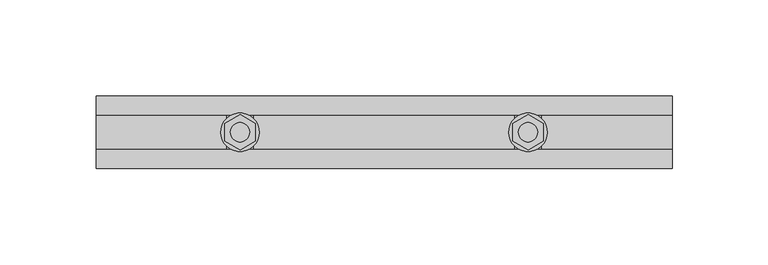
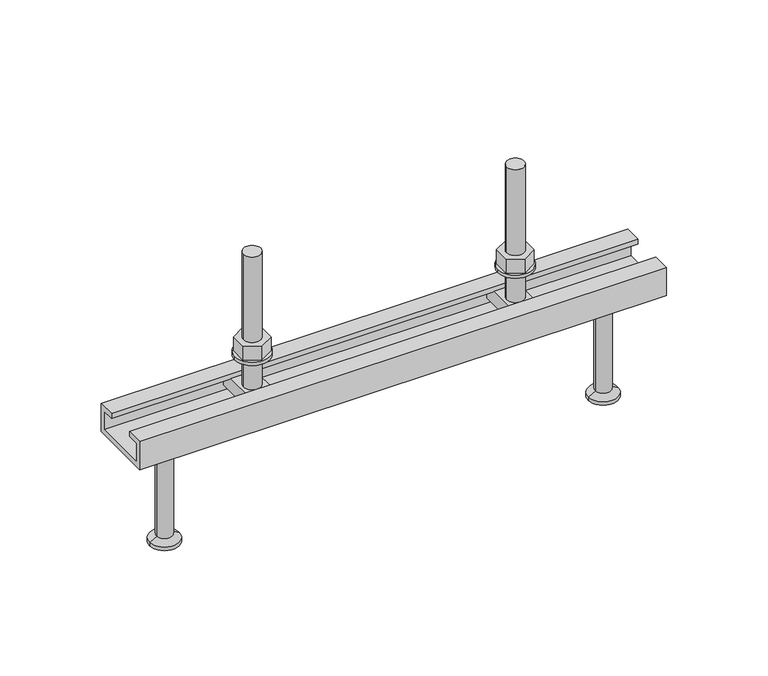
"""IFC4 building model written with IfcOpenShell, lengths in millimetres: fastener geometry, JTA-K JORDAHL® AnchorChannels : JTA-K L=300 mm."""

from ifc_helpers import new_model, si_unit, point, frame, frame_2d, origin, place, context, project, spatial, polyline, circle_curve, trimmed, segment, composite_curve, outline, extrude, source, transform, mapped, element, save
from ifc_brep_helpers import plane_surface, cylinder_surface, revolved_surface, advanced_brep


def fastener_ff0beab8(model_context):
    return source(origin(), model_context, "Body", "SolidModel", [
        extrude(outline(polyline([(225.0, 9.2376043), (233.0, 4.6188022), (233.0, -4.6188022), (225.0, -9.2376043), (217.0, -4.6188022), (217.0, 4.6188022), (225.0, 9.2376043)]), holes=[composite_curve([segment(trimmed(circle_curve(frame_2d((225.0, 0.0)), 5.0), [point((220.0, 0.0))], [point((230.0, 0.0))], True, "CARTESIAN"), True, "CONTINUOUS"), segment(trimmed(circle_curve(frame_2d((225.0, 0.0)), 5.0), [point((230.0, 0.0))], [point((220.0, 0.0))], True, "CARTESIAN"), True, "CONTINUOUS")], self_intersect=False)]), frame((0.0, 0.0, 17.0), z_axis=(0.0, 0.0, 1.0), x_axis=(1.0, 0.0, 0.0)), (0.0, 0.0, 1.0), 8.4),
        extrude(outline(composite_curve([segment(trimmed(circle_curve(frame_2d((225.0, 0.0)), 10.0), [point((215.0, 0.0))], [point((235.0, 0.0))], False, "CARTESIAN"), True, "CONTINUOUS"), segment(trimmed(circle_curve(frame_2d((225.0, 0.0)), 10.0), [point((235.0, 0.0))], [point((215.0, 0.0))], False, "CARTESIAN"), True, "CONTINUOUS")], self_intersect=False), holes=[composite_curve([segment(trimmed(circle_curve(frame_2d((225.0, 0.0)), 5.25), [point((219.75, 0.0))], [point((230.25, 0.0))], True, "CARTESIAN"), True, "CONTINUOUS"), segment(trimmed(circle_curve(frame_2d((225.0, 0.0)), 5.25), [point((230.25, 0.0))], [point((219.75, 0.0))], True, "CARTESIAN"), True, "CONTINUOUS")], self_intersect=False)]), frame((0.0, 0.0, 15.0), z_axis=(0.0, 0.0, 1.0), x_axis=(1.0, 0.0, 0.0)), (0.0, 0.0, 1.0), 2.0),
        extrude(outline(polyline([(75.0, 9.2376043), (83.0, 4.6188022), (83.0, -4.6188022), (75.0, -9.2376043), (67.0, -4.6188022), (67.0, 4.6188022), (75.0, 9.2376043)]), holes=[composite_curve([segment(trimmed(circle_curve(frame_2d((75.0, 0.0)), 5.0), [point((70.0, 0.0))], [point((80.0, 0.0))], True, "CARTESIAN"), True, "CONTINUOUS"), segment(trimmed(circle_curve(frame_2d((75.0, 0.0)), 5.0), [point((80.0, 0.0))], [point((70.0, 0.0))], True, "CARTESIAN"), True, "CONTINUOUS")], self_intersect=False)]), frame((0.0, 0.0, 17.0), z_axis=(0.0, 0.0, 1.0), x_axis=(1.0, 0.0, 0.0)), (0.0, 0.0, 1.0), 8.4),
        extrude(outline(composite_curve([segment(trimmed(circle_curve(frame_2d((75.0, 0.0)), 10.0), [point((65.0, 0.0))], [point((85.0, 0.0))], False, "CARTESIAN"), True, "CONTINUOUS"), segment(trimmed(circle_curve(frame_2d((75.0, 0.0)), 10.0), [point((85.0, 0.0))], [point((65.0, 0.0))], False, "CARTESIAN"), True, "CONTINUOUS")], self_intersect=False), holes=[composite_curve([segment(trimmed(circle_curve(frame_2d((75.0, 0.0)), 5.25), [point((69.75, 0.0))], [point((80.25, 0.0))], True, "CARTESIAN"), True, "CONTINUOUS"), segment(trimmed(circle_curve(frame_2d((75.0, 0.0)), 5.25), [point((80.25, 0.0))], [point((69.75, 0.0))], True, "CARTESIAN"), True, "CONTINUOUS")], self_intersect=False)]), frame((0.0, 0.0, 15.0), z_axis=(0.0, 0.0, 1.0), x_axis=(1.0, 0.0, 0.0)), (0.0, 0.0, 1.0), 2.0),
        advanced_brep(
        [(232.0, 16.0, -3.0), (232.0, -16.0, -3.0), (232.0, -16.0, -11.0), (232.0, 16.0, -11.0), (218.0, 16.0, -3.0), (218.0, 16.0, -11.0), (218.0, -16.0, -11.0), (218.0, -16.0, -3.0), (230.0, 0.0, -3.0), (220.0, 0.0, -3.0), (220.0, 0.0, 77.0), (230.0, 0.0, 77.0)],
        [
            (0, 1),
            (1, 2),
            (2, 3),
            (3, 0),
            (4, 5),
            (5, 6),
            (6, 7),
            (7, 4),
            (0, 4),
            (7, 1),
            (8, 9, circle_curve(frame((225.0, 0.0, -3.0), z_axis=(0.0, 0.0, -1.0), x_axis=(1.0, 0.0, 0.0)), 5.0)),
            (9, 8, circle_curve(frame((225.0, 0.0, -3.0), z_axis=(0.0, 0.0, -1.0), x_axis=(1.0, 0.0, 0.0)), 5.0)),
            (6, 2),
            (5, 3),
            (10, 11, circle_curve(frame((225.0, 0.0, 77.0), z_axis=(0.0, 0.0, 1.0), x_axis=(1.0, 0.0, 0.0)), 5.0)),
            (11, 10, circle_curve(frame((225.0, 0.0, 77.0), z_axis=(0.0, 0.0, 1.0), x_axis=(1.0, 0.0, 0.0)), 5.0)),
            (10, 9),
            (8, 11),
        ],
        [
            plane_surface(frame((232.0, -16.0, -3.0), z_axis=(1.0, 0.0, 0.0), x_axis=(0.0, -1.0, 0.0))),
            plane_surface(frame((218.0, -16.0, -3.0), z_axis=(-1.0, 0.0, 0.0), x_axis=(0.0, 1.0, 0.0))),
            plane_surface(frame((232.0, 16.0, -3.0), z_axis=(0.0, 0.0, 1.0), x_axis=(-1.0, 0.0, 0.0))),
            plane_surface(frame((232.0, -16.0, -3.0), z_axis=(0.0, -1.0, 0.0), x_axis=(-1.0, 0.0, 0.0))),
            plane_surface(frame((232.0, -16.0, -11.0), z_axis=(0.0, 0.0, -1.0), x_axis=(-1.0, 0.0, 0.0))),
            plane_surface(frame((232.0, 16.0, -11.0), z_axis=(0.0, 1.0, 0.0), x_axis=(-1.0, 0.0, 0.0))),
            plane_surface(frame((230.0, 0.0, 77.0), z_axis=(0.0, 0.0, 1.0), x_axis=(0.0, 1.0, 0.0))),
            cylinder_surface(frame((225.0, 0.0, -3.0), z_axis=(0.0, 0.0, 1.0), x_axis=(1.0, 0.0, 0.0)), 5.0),
        ],
        [
            (0, [[1, 2, 3, 4]]),
            (1, [[5, 6, 7, 8]]),
            (2, [[-1, 9, -8, 10], [11, 12]]),
            (3, [[-2, -10, -7, 13]]),
            (4, [[-3, -13, -6, 14]]),
            (5, [[-4, -14, -5, -9]]),
            (6, [[15, 16]]),
            (7, [[-15, 17, -11, 18]]),
            (7, [[-16, -18, -12, -17]]),
        ],
    ),
        advanced_brep(
        [(82.0, 16.0, -3.0), (82.0, -16.0, -3.0), (82.0, -16.0, -11.0), (82.0, 16.0, -11.0), (68.0, 16.0, -3.0), (68.0, 16.0, -11.0), (68.0, -16.0, -11.0), (68.0, -16.0, -3.0), (80.0, 0.0, -3.0), (70.0, 0.0, -3.0), (70.0, 0.0, 77.0), (80.0, 0.0, 77.0)],
        [
            (0, 1),
            (1, 2),
            (2, 3),
            (3, 0),
            (4, 5),
            (5, 6),
            (6, 7),
            (7, 4),
            (0, 4),
            (7, 1),
            (8, 9, circle_curve(frame((75.0, 0.0, -3.0), z_axis=(0.0, 0.0, -1.0), x_axis=(1.0, 0.0, 0.0)), 5.0)),
            (9, 8, circle_curve(frame((75.0, 0.0, -3.0), z_axis=(0.0, 0.0, -1.0), x_axis=(1.0, 0.0, 0.0)), 5.0)),
            (6, 2),
            (5, 3),
            (10, 11, circle_curve(frame((75.0, 0.0, 77.0), z_axis=(0.0, 0.0, 1.0), x_axis=(1.0, 0.0, 0.0)), 5.0)),
            (11, 10, circle_curve(frame((75.0, 0.0, 77.0), z_axis=(0.0, 0.0, 1.0), x_axis=(1.0, 0.0, 0.0)), 5.0)),
            (10, 9),
            (8, 11),
        ],
        [
            plane_surface(frame((82.0, -16.0, -3.0), z_axis=(1.0, 0.0, 0.0), x_axis=(0.0, -1.0, 0.0))),
            plane_surface(frame((68.0, -16.0, -3.0), z_axis=(-1.0, 0.0, 0.0), x_axis=(0.0, 1.0, 0.0))),
            plane_surface(frame((82.0, 16.0, -3.0), z_axis=(0.0, 0.0, 1.0), x_axis=(-1.0, 0.0, 0.0))),
            plane_surface(frame((82.0, -16.0, -3.0), z_axis=(0.0, -1.0, 0.0), x_axis=(-1.0, 0.0, 0.0))),
            plane_surface(frame((82.0, -16.0, -11.0), z_axis=(0.0, 0.0, -1.0), x_axis=(-1.0, 0.0, 0.0))),
            plane_surface(frame((82.0, 16.0, -11.0), z_axis=(0.0, 1.0, 0.0), x_axis=(-1.0, 0.0, 0.0))),
            plane_surface(frame((80.0, 0.0, 77.0), z_axis=(0.0, 0.0, 1.0), x_axis=(0.0, 1.0, 0.0))),
            cylinder_surface(frame((75.0, 0.0, -3.0), z_axis=(0.0, 0.0, 1.0), x_axis=(1.0, 0.0, 0.0)), 5.0),
        ],
        [
            (0, [[1, 2, 3, 4]]),
            (1, [[5, 6, 7, 8]]),
            (2, [[-1, 9, -8, 10], [11, 12]]),
            (3, [[-2, -10, -7, 13]]),
            (4, [[-3, -13, -6, 14]]),
            (5, [[-4, -14, -5, -9]]),
            (6, [[15, 16]]),
            (7, [[-15, 17, -11, 18]]),
            (7, [[-16, -18, -12, -17]]),
        ],
    ),
        advanced_brep(
        [(275.0, 0.0, -17.0), (288.5, 0.0, -17.0), (261.5, 0.0, -17.0), (266.5, 0.0, -80.0), (283.5, 0.0, -80.0), (275.0, 0.0, -80.0), (266.5, 0.0, -78.0), (283.5, 0.0, -78.0), (270.5, 0.0, -75.6905989), (279.5, 0.0, -75.6905989), (270.5, 0.0, -19.5), (279.5, 0.0, -19.5)],
        [
            (0, 1),
            (1, 2, circle_curve(frame((275.0, 0.0, -17.0), z_axis=(0.0, 0.0, 1.0), x_axis=(1.0, 0.0, 0.0)), 13.5)),
            (2, 0),
            (2, 1, circle_curve(frame((275.0, 0.0, -17.0), z_axis=(0.0, 0.0, 1.0), x_axis=(1.0, 0.0, 0.0)), 13.5)),
            (3, 4, circle_curve(frame((275.0, 0.0, -80.0), z_axis=(0.0, 0.0, -1.0), x_axis=(1.0, 0.0, 0.0)), 8.5)),
            (4, 5),
            (5, 3),
            (4, 3, circle_curve(frame((275.0, 0.0, -80.0), z_axis=(0.0, 0.0, -1.0), x_axis=(1.0, 0.0, 0.0)), 8.5)),
            (6, 7, circle_curve(frame((275.0, 0.0, -78.0), z_axis=(0.0, 0.0, -1.0), x_axis=(1.0, 0.0, 0.0)), 8.5)),
            (7, 4),
            (3, 6),
            (7, 6, circle_curve(frame((275.0, 0.0, -78.0), z_axis=(0.0, 0.0, -1.0), x_axis=(1.0, 0.0, 0.0)), 8.5)),
            (8, 9, circle_curve(frame((275.0, 0.0, -75.6905989), z_axis=(0.0, 0.0, -1.0), x_axis=(1.0, 0.0, 0.0)), 4.5)),
            (9, 7),
            (6, 8),
            (9, 8, circle_curve(frame((275.0, 0.0, -75.6905989), z_axis=(0.0, 0.0, -1.0), x_axis=(1.0, 0.0, 0.0)), 4.5)),
            (10, 11, circle_curve(frame((275.0, 0.0, -19.5), z_axis=(0.0, 0.0, -1.0), x_axis=(1.0, 0.0, 0.0)), 4.5)),
            (11, 9),
            (8, 10),
            (11, 10, circle_curve(frame((275.0, 0.0, -19.5), z_axis=(0.0, 0.0, -1.0), x_axis=(1.0, 0.0, 0.0)), 4.5)),
            (1, 11),
            (10, 2),
        ],
        [
            plane_surface(frame((275.0, 0.0, -17.0), z_axis=(0.0, 0.0, 1.0), x_axis=(1.0, 0.0, 0.0))),
            plane_surface(frame((275.0, 0.0, -80.0), z_axis=(0.0, 0.0, -1.0), x_axis=(1.0, 0.0, 0.0))),
            cylinder_surface(frame((275.0, 0.0, 2277.3150031), z_axis=(0.0, 0.0, 1.0), x_axis=(1.0, 0.0, 0.0)), 8.5),
            revolved_surface(polyline([(283.5, 0.0, -78.0), (279.5, 0.0, -75.6905989)]), (275.0, 0.0, 2277.3150031), (0.0, 0.0, 1.0)),
            cylinder_surface(frame((275.0, 0.0, 2277.3150031), z_axis=(0.0, 0.0, 1.0), x_axis=(1.0, 0.0, 0.0)), 4.5),
            revolved_surface(polyline([(279.5, 0.0, -19.5), (288.5, 0.0, -17.0)]), (275.0, 0.0, 2277.3150031), (0.0, 0.0, 1.0)),
        ],
        [
            (0, [[1, 2, 3]]),
            (0, [[-3, 4, -1]]),
            (1, [[5, 6, 7]]),
            (1, [[8, -7, -6]]),
            (2, [[9, 10, -5, 11]]),
            (2, [[12, -11, -8, -10]]),
            (3, [[13, 14, -9, 15]]),
            (3, [[16, -15, -12, -14]]),
            (4, [[17, 18, -13, 19]]),
            (4, [[20, -19, -16, -18]]),
            (5, [[-2, 21, -17, 22]]),
            (5, [[-4, -22, -20, -21]]),
        ],
    ),
        advanced_brep(
        [(25.0, 0.0, -17.0), (38.5, 0.0, -17.0), (11.5, 0.0, -17.0), (16.5, 0.0, -80.0), (33.5, 0.0, -80.0), (25.0, 0.0, -80.0), (16.5, 0.0, -78.0), (33.5, 0.0, -78.0), (20.5, 0.0, -75.6905989), (29.5, 0.0, -75.6905989), (20.5, 0.0, -19.5), (29.5, 0.0, -19.5)],
        [
            (0, 1),
            (1, 2, circle_curve(frame((25.0, 0.0, -17.0), z_axis=(0.0, 0.0, 1.0), x_axis=(1.0, 0.0, 0.0)), 13.5)),
            (2, 0),
            (2, 1, circle_curve(frame((25.0, 0.0, -17.0), z_axis=(0.0, 0.0, 1.0), x_axis=(1.0, 0.0, 0.0)), 13.5)),
            (3, 4, circle_curve(frame((25.0, 0.0, -80.0), z_axis=(0.0, 0.0, -1.0), x_axis=(1.0, 0.0, 0.0)), 8.5)),
            (4, 5),
            (5, 3),
            (4, 3, circle_curve(frame((25.0, 0.0, -80.0), z_axis=(0.0, 0.0, -1.0), x_axis=(1.0, 0.0, 0.0)), 8.5)),
            (6, 7, circle_curve(frame((25.0, 0.0, -78.0), z_axis=(0.0, 0.0, -1.0), x_axis=(1.0, 0.0, 0.0)), 8.5)),
            (7, 4),
            (3, 6),
            (7, 6, circle_curve(frame((25.0, 0.0, -78.0), z_axis=(0.0, 0.0, -1.0), x_axis=(1.0, 0.0, 0.0)), 8.5)),
            (8, 9, circle_curve(frame((25.0, 0.0, -75.6905989), z_axis=(0.0, 0.0, -1.0), x_axis=(1.0, 0.0, 0.0)), 4.5)),
            (9, 7),
            (6, 8),
            (9, 8, circle_curve(frame((25.0, 0.0, -75.6905989), z_axis=(0.0, 0.0, -1.0), x_axis=(1.0, 0.0, 0.0)), 4.5)),
            (10, 11, circle_curve(frame((25.0, 0.0, -19.5), z_axis=(0.0, 0.0, -1.0), x_axis=(1.0, 0.0, 0.0)), 4.5)),
            (11, 9),
            (8, 10),
            (11, 10, circle_curve(frame((25.0, 0.0, -19.5), z_axis=(0.0, 0.0, -1.0), x_axis=(1.0, 0.0, 0.0)), 4.5)),
            (1, 11),
            (10, 2),
        ],
        [
            plane_surface(frame((25.0, 0.0, -17.0), z_axis=(0.0, 0.0, 1.0), x_axis=(1.0, 0.0, 0.0))),
            plane_surface(frame((25.0, 0.0, -80.0), z_axis=(0.0, 0.0, -1.0), x_axis=(1.0, 0.0, 0.0))),
            cylinder_surface(frame((25.0, 0.0, 2277.3150031), z_axis=(0.0, 0.0, 1.0), x_axis=(1.0, 0.0, 0.0)), 8.5),
            revolved_surface(polyline([(33.5, 0.0, -78.0), (29.5, 0.0, -75.6905989)]), (25.0, 0.0, 2277.3150031), (0.0, 0.0, 1.0)),
            cylinder_surface(frame((25.0, 0.0, 2277.3150031), z_axis=(0.0, 0.0, 1.0), x_axis=(1.0, 0.0, 0.0)), 4.5),
            revolved_surface(polyline([(29.5, 0.0, -19.5), (38.5, 0.0, -17.0)]), (25.0, 0.0, 2277.3150031), (0.0, 0.0, 1.0)),
        ],
        [
            (0, [[1, 2, 3]]),
            (0, [[-3, 4, -1]]),
            (1, [[5, 6, 7]]),
            (1, [[8, -7, -6]]),
            (2, [[9, 10, -5, 11]]),
            (2, [[12, -11, -8, -10]]),
            (3, [[13, 14, -9, 15]]),
            (3, [[16, -15, -12, -14]]),
            (4, [[17, 18, -13, 19]]),
            (4, [[20, -19, -16, -18]]),
            (5, [[-2, 21, -17, 22]]),
            (5, [[-4, -22, -20, -21]]),
        ],
    ),
        extrude(outline(polyline([(19.0, 0.0), (19.0, -17.0), (-19.0, -17.0), (-19.0, 0.0), (-9.0, 0.0), (-9.0, -3.0), (-16.0, -3.0), (-16.0, -14.0), (16.0, -14.0), (16.0, -3.0), (9.0, -3.0), (9.0, 0.0), (19.0, 0.0)])), frame((0.0, 0.0, 0.0), z_axis=(1.0, 0.0, 0.0), x_axis=(0.0, 1.0, 0.0)), (0.0, 0.0, 1.0), 300.0),
    ])


if __name__ == "__main__":
    model = new_model("IFC4")
    model_context = context("Model", 3, world=origin())
    ifc_project = project(units=[si_unit("LENGTHUNIT", "METRE", prefix="MILLI")], contexts=[model_context])
    site = spatial("IfcSite", under=ifc_project)
    building = spatial("IfcBuilding", under=site)
    placement = place(None, origin())
    fastener_shape = fastener_ff0beab8(model_context)
    element("IfcFastener", 1, ObjectType="JTA-K JORDAHL® AnchorChannels : JTA-K L=300 mm", at=placement, inside=building, context=model_context, shape_type="MappedRepresentation", body=[
        mapped(fastener_shape, transform((0.0, 0.0, 0.0), x_axis=(1.0, 0.0, 0.0), y_axis=(0.0, 1.0, 0.0), z_axis=(0.0, 0.0, 1.0))),
    ])
    save(model, "model.ifc")
